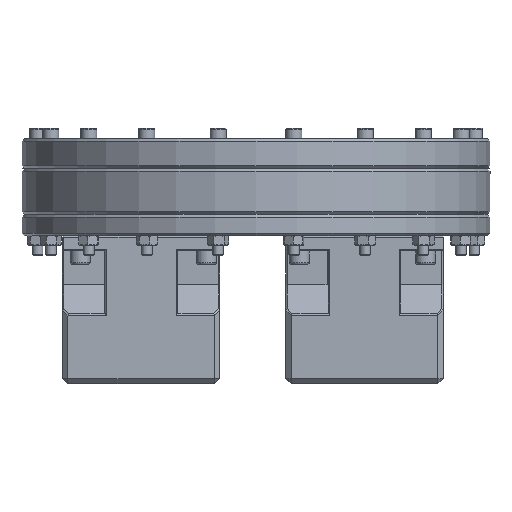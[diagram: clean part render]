
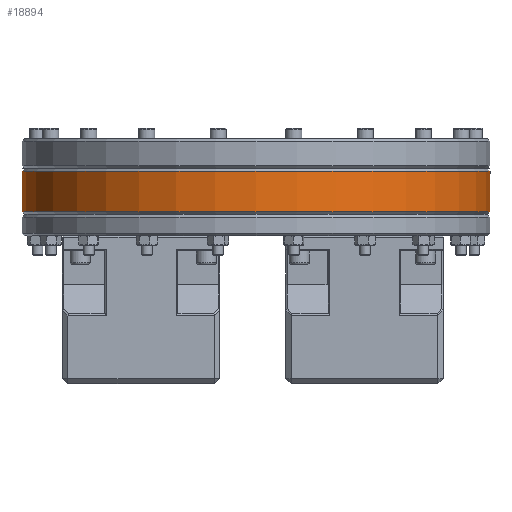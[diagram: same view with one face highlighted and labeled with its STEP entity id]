
A CAD part, front view. The second image highlights one B-rep face of the part: STEP entity #18894.
In plain terms, the highlighted cylindrical face has radius 139.7 mm (diameter 279.4 mm), a full revolution.
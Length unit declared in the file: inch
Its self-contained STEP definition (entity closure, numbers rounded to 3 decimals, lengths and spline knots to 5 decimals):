
#3573=FACE_BOUND('',#6041,.T.);
#4483=FACE_OUTER_BOUND('',#6040,.T.);
#6040=EDGE_LOOP('',(#13825));
#6041=EDGE_LOOP('',(#13826));
#7707=CIRCLE('',#20482,5.5);
#7708=CIRCLE('',#20484,5.5);
#8933=VERTEX_POINT('',#30005);
#8934=VERTEX_POINT('',#30008);
#10802=EDGE_CURVE('',#8933,#8933,#7707,.T.);
#10803=EDGE_CURVE('',#8934,#8934,#7708,.T.);
#13825=ORIENTED_EDGE('',*,*,#10803,.F.);
#13826=ORIENTED_EDGE('',*,*,#10802,.F.);
#17047=CYLINDRICAL_SURFACE('',#20483,5.5);
#18894=ADVANCED_FACE('',(#4483,#3573),#17047,.T.);
#20482=AXIS2_PLACEMENT_3D('',#30006,#23726,#23727);
#20483=AXIS2_PLACEMENT_3D('',#30007,#23728,#23729);
#20484=AXIS2_PLACEMENT_3D('',#30009,#23730,#23731);
#23726=DIRECTION('center_axis',(0.,0.,
-1.));
#23727=DIRECTION('ref_axis',(-1.,0.,0.));
#23728=DIRECTION('center_axis',(0.,0.,
1.));
#23729=DIRECTION('ref_axis',(-1.,0.,0.));
#23730=DIRECTION('center_axis',(0.,0.,
1.));
#23731=DIRECTION('ref_axis',(1.,0.,0.));
#30005=CARTESIAN_POINT('',(4.48876,7.07252,0.91292));
#30006=CARTESIAN_POINT('Origin',(-1.01124,7.07252,0.91292));
#30007=CARTESIAN_POINT('Origin',(-1.01124,7.07252,1.68792));
#30008=CARTESIAN_POINT('',(-6.51124,7.07252,1.86292));
#30009=CARTESIAN_POINT('Origin',(-1.01124,7.07252,1.86292));
